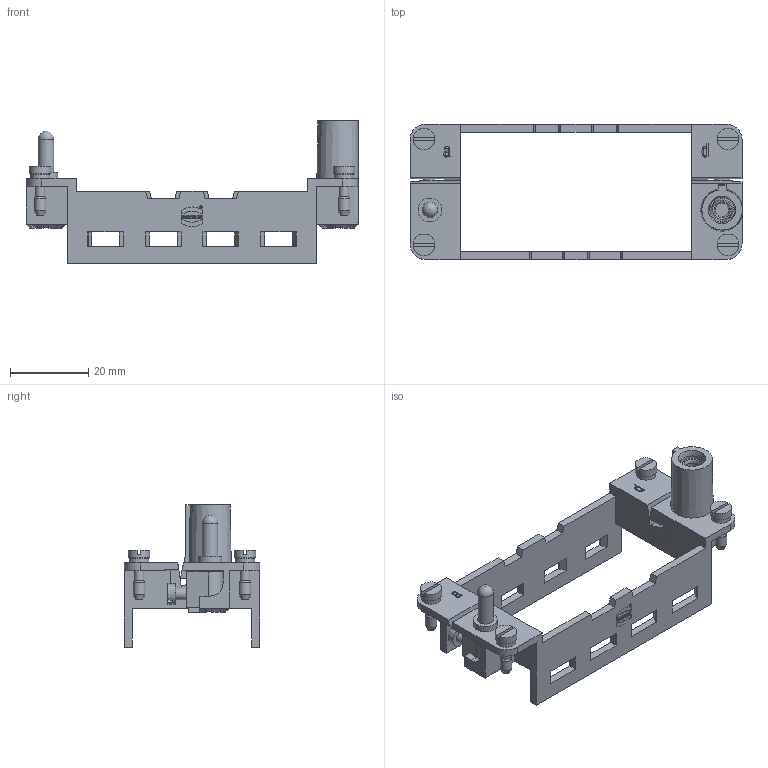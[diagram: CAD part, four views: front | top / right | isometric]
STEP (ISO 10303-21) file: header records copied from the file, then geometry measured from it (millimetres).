
FILE_DESCRIPTION(/* description */ (''),/* implementation_level */ '2;1');
FILE_NAME(/* name */ '100663489ugm000_c.stp',/* time_stamp */ '2022-03-12T00:35:55+01:00',/* author */ (''),/* organization */ (''),/* preprocessor_version */ 'ST-DEVELOPER v16.7',/* originating_system */ 'SIEMENS PLM Software NX 1911',/* authorisation */ '');
FILE_SCHEMA (('AUTOMOTIVE_DESIGN { 1 0 10303 214 3 1 1 1 }'));
Length unit declared in the file: millimetre
Products named in the file (1): 100663489ugm000_c
Bounding box: 84.65 x 34.5 x 36.3 mm (x, y, z)
Volume: 10671.4 mm3; surface area: 12294.2 mm2
Topology: 2 solids, 2 shells, 650 faces, 1763 edges, 1168 vertices
Faces by surface type: plane 501, cylinder 70, extrusion 41, cone 20, bspline 16, sphere 1, torus 1
Full cylindrical faces by diameter (mm): 0.569 x1, 0.673 x1, 2.485 x2, 2.5 x8, 2.68 x1, 2.685 x2, 3 x5, 3.12 x1, 3.35 x1, 3.975 x2, 4 x2, 4.85 x1, 5 x2, 5.06 x2, 5.5 x5, 5.85 x1, 6.05 x1, 6.35 x1
Entity records: 22815 total; most frequent: CARTESIAN_POINT 5692, ORIENTED_EDGE 3316, DIRECTION 2902, EDGE_CURVE 1658, VECTOR 1276, LINE 1235, VERTEX_POINT 1129, AXIS2_PLACEMENT_3D 813
